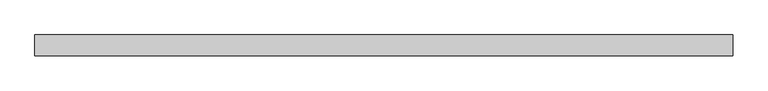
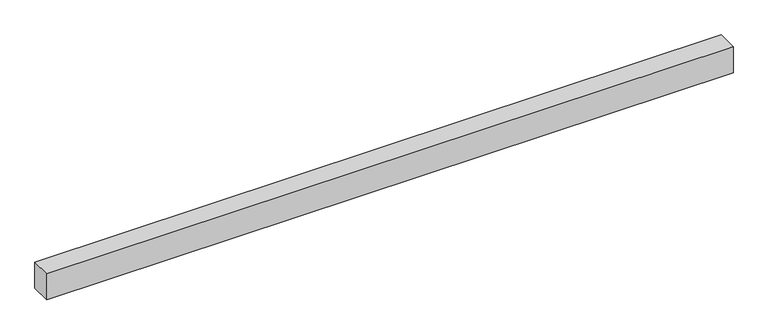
"""IFC4 building model written with IfcOpenShell, lengths in millimetres: proxy geometry, Кабель-каналы_магистральные_цвет-белый : Кабель-канал магистральный 80х60 белый."""

from ifc_helpers import new_model, si_unit, origin, origin_with_axes, place, context, project, spatial, polyline, outline, extrude, source, transform, mapped, element, save


def generic_models_247a60de(model_context):
    return source(origin(), model_context, "Body", "SweptSolid", [
        extrude(outline(polyline([(2000.0, -60.0), (0.0, -60.0), (0.0, 0.0), (2000.0, 0.0), (2000.0, -60.0)])), origin_with_axes(), (0.0, 0.0, 1.0), 80.0),
    ])


if __name__ == "__main__":
    model = new_model("IFC4")
    model_context = context("Model", 3, world=origin())
    ifc_project = project(units=[si_unit("LENGTHUNIT", "METRE", prefix="MILLI")], contexts=[model_context])
    site = spatial("IfcSite", under=ifc_project)
    building = spatial("IfcBuilding", under=site)
    placement = place(None, origin())
    generic_models_shape = generic_models_247a60de(model_context)
    element("IfcBuildingElementProxy", 1, Name="Кабель-каналы_магистральные_цвет-белый : Кабель-канал магистральный 80х60 белый", ObjectType="Кабель-каналы_магистральные_цвет-белый : Кабель-канал магистральный 80х60 белый", at=placement, inside=building, context=model_context, shape_type="MappedRepresentation", body=[
        mapped(generic_models_shape, transform((0.0, 0.0, 0.0), x_axis=(1.0, 0.0, 0.0), y_axis=(0.0, 1.0, 0.0), z_axis=(0.0, 0.0, 1.0))),
    ])
    save(model, "model.ifc")
